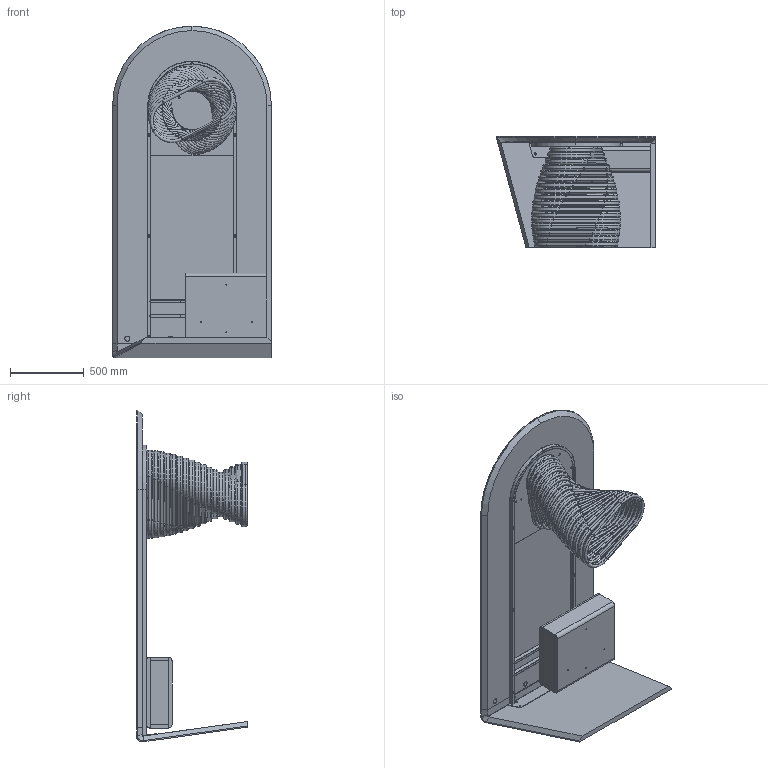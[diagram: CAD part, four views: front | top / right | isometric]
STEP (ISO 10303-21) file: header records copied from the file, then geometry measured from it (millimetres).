
FILE_DESCRIPTION (( 'STEP AP203' ), '1' );
FILE_NAME ('RD70C_Cilindro Desk_225x108x75h_Ceramic.STEP', '2024-08-06T07:10:28', ( '' ), ( '' ), 'SwSTEP 2.0', 'SolidWorks 2022', '' );
FILE_SCHEMA (( 'CONFIG_CONTROL_DESIGN' ));
Length unit declared in the file: millimetre
Products named in the file (15): CAS003-00-Frontalino Cassetto; ROBX00000INF-00-Anello rotolo INFERIORE_Default<A macchina>; K70CMX-00-TOP PER DESK  215X107.6 CERAMICA; TTAV09_01-04-Struttura tubolare per telaio DESK_Default<A macchina>; TTAV09_03-02-PIASTRA forata per DESK_ver. Onda_Rotolo; TTAV09_02-03-Staffa a L supporto telaio; TTAV09-04-TELAIO PER SCRIVANIA DESK_conf. Cilindro; ROBX00000MED-00-Anello rotolo MEDIO_Default<A macchina>; RD70C_Cilindro Desk_225x108x75h_Ceramic; CAS001-00-Struttura Cassetto_Default<A macchina>; ROBX00000SUP-00-Anello rotolo SUPERIORE_Default<A macchina>; Freccia_default specchiata; ROBX00000-00-ROTOLO BASE 17 ANELLI; DSK000000CAS-02-DESK CASSETTO COMPLETO_Variante per desk; DSK000000STR-00-DESK STRUTTURA IN LEGNO
Assembly tree (28 placements, depth 3):
  RD70C_Cilindro Desk_225x108x75h_Ceramic
    DSK000000STR-00-DESK STRUTTURA IN LEGNO
    K70CMX-00-TOP PER DESK  215X107.6 CERAMICA
    ROBX00000-00-ROTOLO BASE 17 ANELLI
      ROBX00000INF-00-Anello rotolo INFERIORE_Default<A macchina>
      ROBX00000MED-00-Anello rotolo MEDIO_Default<A macchina>  x15
      ROBX00000SUP-00-Anello rotolo SUPERIORE_Default<A macchina>
    DSK000000CAS-02-DESK CASSETTO COMPLETO_Variante per desk
      CAS001-00-Struttura Cassetto_Default<A macchina>
      CAS003-00-Frontalino Cassetto
    TTAV09-04-TELAIO PER SCRIVANIA DESK_conf. Cilindro
      TTAV09_02-03-Staffa a L supporto telaio
      TTAV09_01-04-Struttura tubolare per telaio DESK_Default<A macchina>
      TTAV09_03-02-PIASTRA forata per DESK_ver. Onda_Rotolo
    Freccia_default specchiata
Bounding box: 1075 x 750 x 2245 mm (x, y, z)
Volume: 134553014 mm3; surface area: 18978097.1 mm2
Topology: 83 solids, 83 shells, 1311 faces, 3359 edges, 2172 vertices
Faces by surface type: cylinder 609, plane 473, torus 152, cone 72, bspline 5
Entity records: 27693 total; most frequent: CARTESIAN_POINT 7281, DIRECTION 3965, ORIENTED_EDGE 3742, EDGE_CURVE 1871, AXIS2_PLACEMENT_3D 1479, VERTEX_POINT 1220, LINE 1007, VECTOR 1007
